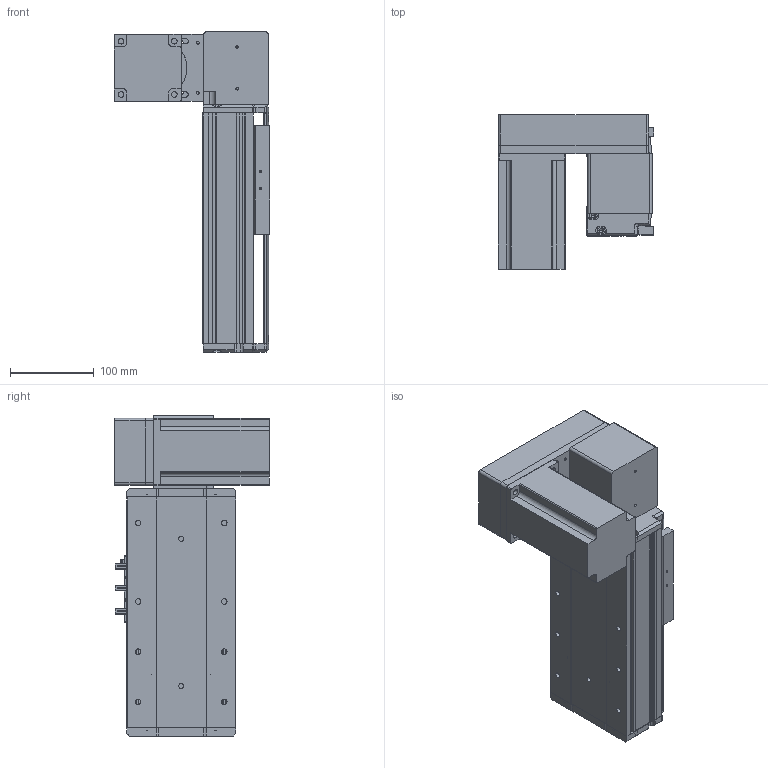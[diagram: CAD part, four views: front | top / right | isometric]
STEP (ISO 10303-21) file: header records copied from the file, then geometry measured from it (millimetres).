
FILE_DESCRIPTION (( 'STEP AP214' ), '1' );
FILE_NAME ('KSD130B-S50-MRD-CM.STEP', '2019-09-21T09:25:43', ( '微软用户' ), ( '微软中国' ), 'SwSTEP 2.0', 'SolidWorks 2014', '' );
FILE_SCHEMA (( 'AUTOMOTIVE_DESIGN' ));
Length unit declared in the file: millimetre
Products named in the file (12): 130宽模组保护罩上下左右折-同步带; 台达ECMA－C20807AS伺服电机; 130宽模组马达安装板连板上下折丝杆同步带; 覜茼え100遵圉猾敕; U倰嫖萇EEㄜSX672; 130宽盖板半封闭同步带-50行程; 130宽马达安装板同步带右-改镜向_默认<按加工>; 130宽马达安装板同步带半封闭; 130宽同步带安装座半封闭; 130宽端盖同步带半封闭; 130宽底板半封闭同步带-50行程; KSD130B-S50-MRD-CM
Assembly tree (13 placements, depth 2):
  KSD130B-S50-MRD-CM
    130宽底板半封闭同步带-50行程
    130宽端盖同步带半封闭
    130宽同步带安装座半封闭
    130宽马达安装板同步带半封闭
    130宽马达安装板同步带右-改镜向_默认<按加工>
    130宽盖板半封闭同步带-50行程
    U倰嫖萇EEㄜSX672  x3
    覜茼え100遵圉猾敕
    130宽模组马达安装板连板上下折丝杆同步带
    台达ECMA－C20807AS伺服电机
    130宽模组保护罩上下左右折-同步带
Bounding box: 186 x 184.8 x 383 mm (x, y, z)
Volume: 2401306.6 mm3; surface area: 570296.5 mm2
Topology: 14 solids, 14 shells, 1313 faces, 3665 edges, 2371 vertices
Faces by surface type: cylinder 604, plane 598, cone 111
Entity records: 41171 total; most frequent: CARTESIAN_POINT 7204, DIRECTION 6359, ORIENTED_EDGE 6094, EDGE_CURVE 3047, AXIS2_PLACEMENT_3D 2286, VERTEX_POINT 1995, VECTOR 1787, LINE 1787
